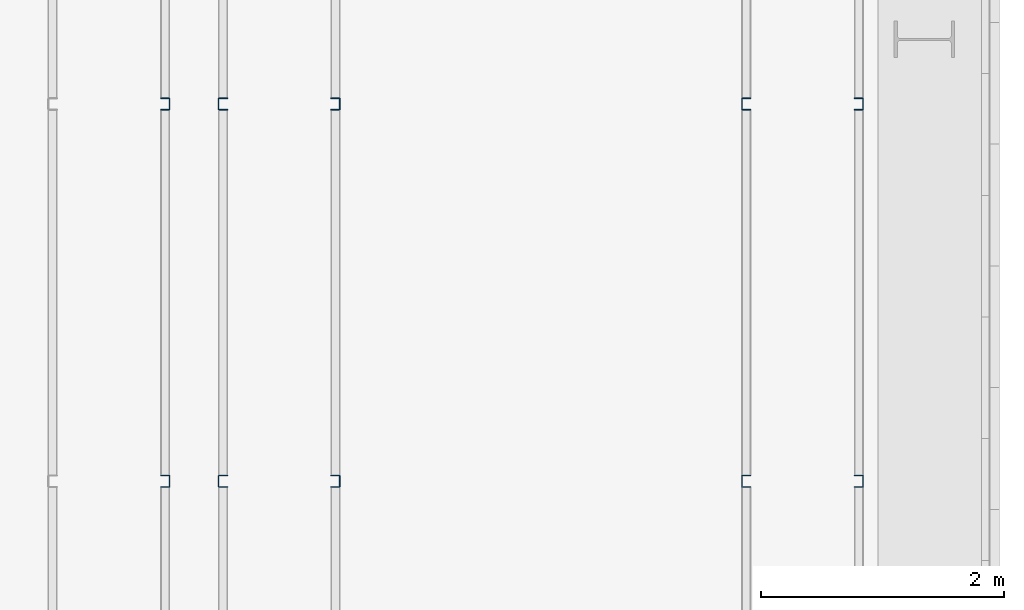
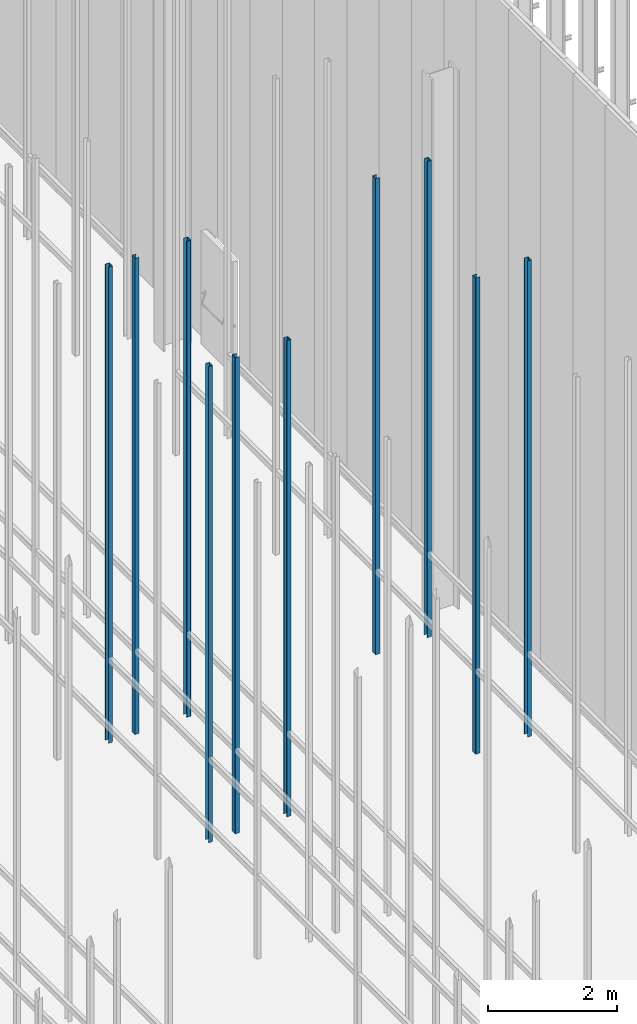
# One storey, part 28 of 302: 10 columns.
"""IFC2X3 building model written with IfcOpenShell, lengths in metres."""

from ifc_helpers import new_model, entity, si_unit, converted_unit, derived_unit, direction, frame, frame_2d, origin, place, context, subcontext, project, spatial, polyline, circle_curve, parameter, trimmed, segment, composite_curve, outline, extrude, source, transform, mapped, material, type_object, type_shapes, element, save


model = new_model("IFC2X3")

# Units and contexts
model_context = context("Model", 3, precision=1e-05, world=origin(), true_north=direction((6.12303176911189e-17, 1.0)))
body_context = subcontext(model_context, "Body", "Model", "MODEL_VIEW")
ifc_project = project(units=[si_unit("LENGTHUNIT", "METRE"), si_unit("AREAUNIT", "SQUARE_METRE"), si_unit("VOLUMEUNIT", "CUBIC_METRE"), converted_unit("PLANEANGLEUNIT", "DEGREE", entity("IfcRatioMeasure", 0.0174532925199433), si_unit("PLANEANGLEUNIT", "RADIAN"), dimensions=[0, 0, 0, 0, 0, 0, 0]), si_unit("MASSUNIT", "GRAM", prefix="KILO"), derived_unit("MASSDENSITYUNIT", [(si_unit("MASSUNIT", "GRAM", prefix="KILO"), 1), (si_unit("LENGTHUNIT", "METRE"), -3)]), derived_unit("MOMENTOFINERTIAUNIT", [(si_unit("LENGTHUNIT", "METRE"), 4)]), si_unit("TIMEUNIT", "SECOND"), si_unit("FREQUENCYUNIT", "HERTZ"), si_unit("THERMODYNAMICTEMPERATUREUNIT", "DEGREE_CELSIUS"), derived_unit("THERMALTRANSMITTANCEUNIT", [(si_unit("MASSUNIT", "GRAM", prefix="KILO"), 1), (si_unit("THERMODYNAMICTEMPERATUREUNIT", "KELVIN"), -1), (si_unit("TIMEUNIT", "SECOND"), -3)]), derived_unit("VOLUMETRICFLOWRATEUNIT", [(si_unit("LENGTHUNIT", "METRE"), 3), (si_unit("TIMEUNIT", "SECOND"), -1)]), si_unit("ELECTRICCURRENTUNIT", "AMPERE"), si_unit("ELECTRICVOLTAGEUNIT", "VOLT"), si_unit("POWERUNIT", "WATT"), si_unit("FORCEUNIT", "NEWTON", prefix="KILO"), si_unit("ILLUMINANCEUNIT", "LUX"), si_unit("LUMINOUSFLUXUNIT", "LUMEN"), si_unit("LUMINOUSINTENSITYUNIT", "CANDELA"), derived_unit("USERDEFINED", [(si_unit("MASSUNIT", "GRAM", prefix="KILO"), -1), (si_unit("LENGTHUNIT", "METRE"), -2), (si_unit("TIMEUNIT", "SECOND"), 3), (si_unit("LUMINOUSFLUXUNIT", "LUMEN"), 1)]), derived_unit("LINEARVELOCITYUNIT", [(si_unit("LENGTHUNIT", "METRE"), 1), (si_unit("TIMEUNIT", "SECOND"), -1)]), si_unit("PRESSUREUNIT", "PASCAL"), derived_unit("USERDEFINED", [(si_unit("LENGTHUNIT", "METRE"), -2), (si_unit("MASSUNIT", "GRAM", prefix="KILO"), 1), (si_unit("TIMEUNIT", "SECOND"), -2)]), derived_unit("LINEARFORCEUNIT", [(si_unit("MASSUNIT", "GRAM", prefix="KILO"), 1), (si_unit("LENGTHUNIT", "METRE"), 1), (si_unit("TIMEUNIT", "SECOND"), -2), (si_unit("LENGTHUNIT", "METRE"), -1)]), derived_unit("PLANARFORCEUNIT", [(si_unit("MASSUNIT", "GRAM", prefix="KILO"), 1), (si_unit("LENGTHUNIT", "METRE"), 1), (si_unit("TIMEUNIT", "SECOND"), -2), (si_unit("LENGTHUNIT", "METRE"), -2)])], contexts=[model_context])

# Site, building, storey
site_placement = place(None, origin())
site = spatial("IfcSite", under=ifc_project, at=site_placement, Name="Default", CompositionType="ELEMENT")
building_placement = place(site_placement, origin())
building = spatial("IfcBuilding", under=site, at=building_placement, CompositionType="ELEMENT")
storey_placement = place(building_placement, frame((0.0, 0.0, -1.3)))
storey = spatial("IfcBuildingStorey", under=building, at=storey_placement, Name="00_EG", CompositionType="ELEMENT", Elevation=-1.3)

# Columns
ifc_material = material(Name="Metall - Baustahl S235")
column_type_1 = type_object("IfcColumnType", Name="Leichter Stahl Schlossschrauben Stütze:C 100", PredefinedType="COLUMN", material=ifc_material)
shared_shape_1 = source(origin(), body_context, "Body", "SweptSolid", [
    extrude(outline(composite_curve([segment(polyline([(-0.0469749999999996, -0.0499999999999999), (0.0214500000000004, -0.0499999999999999)]), True, "CONTINUOUS"), segment(trimmed(circle_curve(frame_2d((0.0214500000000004, -0.0434249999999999), x_axis=(0.0, -1.0)), 0.00657500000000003), [parameter(0.0)], [parameter(89.9999999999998)], True, "PARAMETER"), True, "CONTINUOUS"), segment(polyline([(0.0280250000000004, -0.0434249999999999), (0.0280250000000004, 0.0434250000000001)]), True, "CONTINUOUS"), segment(trimmed(circle_curve(frame_2d((0.0214500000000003, 0.0434250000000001), x_axis=(1.0, 0.0)), 0.0065750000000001), [parameter(0.0)], [parameter(89.9999999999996)], True, "PARAMETER"), True, "CONTINUOUS"), segment(polyline([(0.0214500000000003, 0.0500000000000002), (-0.0469750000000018, 0.0500000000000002)]), True, "CONTINUOUS"), segment(polyline([(-0.0469750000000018, 0.0500000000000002), (-0.0469750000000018, 0.0450000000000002)]), True, "CONTINUOUS"), segment(polyline([(-0.0469750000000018, 0.0450000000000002), (0.0214500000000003, 0.0450000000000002)]), True, "CONTINUOUS"), segment(trimmed(circle_curve(frame_2d((0.0214500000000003, 0.0434249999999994), x_axis=(0.0, 1.0)), 0.00157500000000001), [parameter(269.999999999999)], [parameter(0.0)], True, "PARAMETER"), False, "CONTINUOUS"), segment(polyline([(0.0230250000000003, 0.0434249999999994), (0.0230250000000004, -0.0434249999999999)]), True, "CONTINUOUS"), segment(trimmed(circle_curve(frame_2d((0.0214500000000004, -0.0434249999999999), x_axis=(1.0, 0.0)), 0.00157500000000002), [parameter(270.0)], [parameter(0.0)], True, "PARAMETER"), False, "CONTINUOUS"), segment(polyline([(0.0214500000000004, -0.0449999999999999), (-0.0469749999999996, -0.0449999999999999)]), True, "CONTINUOUS"), segment(polyline([(-0.0469749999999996, -0.0449999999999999), (-0.0469749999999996, -0.0499999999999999)]), True, "CONTINUOUS")], self_intersect=False)), frame((0.0499999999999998, 0.0280250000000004, -0.0300000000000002), z_axis=(0.0, 0.0, 1.0), x_axis=(0.0, -1.0, 0.0)), (0.0, 0.0, 1.0), 9.0),
])
type_shapes(column_type_1, [shared_shape_1])
for number, where, z_axis, x_axis in (
    (1, (-183.690111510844, 36.448088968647, 1.3), (0.0, 0.0, 1.0), (0.0, -1.0, 0.0)),
    (2, (-183.690111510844, 39.548088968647, 1.3), (0.0, 0.0, 1.0), (0.0, -1.0, 0.0)),
    (3, (-179.390111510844, 36.448088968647, 1.3), (0.0, 0.0, 1.0), (0.0, -1.0, 0.0)),
    (4, (-179.390111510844, 39.5480889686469, 1.3), (0.0, 0.0, 1.0), (0.0, -1.0, 0.0)),
):
    element("IfcColumn", number, at=place(storey_placement, frame(where, z_axis=z_axis, x_axis=x_axis)), inside=storey, type_object=column_type_1, material=ifc_material, Name="Leichter Stahl Schlossschrauben Stütze:C 100", ObjectType="Leichter Stahl Schlossschrauben Stütze:C 100", context=body_context, shape_type="MappedRepresentation", body=[
        mapped(shared_shape_1, transform((0.0, 0.0, 0.0), scale=1.0)),
    ])
column_type_2 = type_object("IfcColumnType", Name="Leichter Stahl Schlossschrauben Stütze:C 100", PredefinedType="COLUMN", material=ifc_material)
shared_shape_2 = source(origin(), body_context, "Body", "SweptSolid", [
    extrude(outline(composite_curve([segment(polyline([(-0.0214500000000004, -0.0499999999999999), (0.0469749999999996, -0.0499999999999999)]), True, "CONTINUOUS"), segment(polyline([(0.0469749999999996, -0.0499999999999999), (0.0469749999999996, -0.0449999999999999)]), True, "CONTINUOUS"), segment(polyline([(0.0469749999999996, -0.0449999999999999), (-0.0214500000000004, -0.045)]), True, "CONTINUOUS"), segment(trimmed(circle_curve(frame_2d((-0.0214500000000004, -0.043425), x_axis=(0.0, -1.0)), 0.00157500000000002), [parameter(270.0)], [parameter(0.0)], True, "PARAMETER"), False, "CONTINUOUS"), segment(polyline([(-0.0230250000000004, -0.0434249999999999), (-0.0230250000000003, 0.0434249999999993)]), True, "CONTINUOUS"), segment(trimmed(circle_curve(frame_2d((-0.0214500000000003, 0.0434249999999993), x_axis=(-1.0, 0.0)), 0.00157500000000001), [parameter(269.999999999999)], [parameter(0.0)], True, "PARAMETER"), False, "CONTINUOUS"), segment(polyline([(-0.0214500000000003, 0.0450000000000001), (0.0469750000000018, 0.0450000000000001)]), True, "CONTINUOUS"), segment(polyline([(0.0469750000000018, 0.0450000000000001), (0.0469750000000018, 0.0500000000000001)]), True, "CONTINUOUS"), segment(polyline([(0.0469750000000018, 0.0500000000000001), (-0.0214500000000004, 0.0500000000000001)]), True, "CONTINUOUS"), segment(trimmed(circle_curve(frame_2d((-0.0214500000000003, 0.043425), x_axis=(0.0, 1.0)), 0.0065750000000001), [parameter(0.0)], [parameter(89.9999999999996)], True, "PARAMETER"), True, "CONTINUOUS"), segment(polyline([(-0.0280250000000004, 0.043425), (-0.0280250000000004, -0.043425)]), True, "CONTINUOUS"), segment(trimmed(circle_curve(frame_2d((-0.0214500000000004, -0.0434249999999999), x_axis=(-1.0, 0.0)), 0.00657500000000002), [parameter(0.0)], [parameter(89.9999999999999)], True, "PARAMETER"), True, "CONTINUOUS")], self_intersect=False)), frame((0.0499999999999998, -0.0280250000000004, -0.0300000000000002), z_axis=(0.0, 0.0, 1.0), x_axis=(0.0, -1.0, 0.0)), (0.0, 0.0, 1.0), 9.0),
])
type_shapes(column_type_2, [shared_shape_2])
for number, where, z_axis, x_axis in (
    (5, (-184.090111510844, 36.448088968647, 1.3), (0.0, 0.0, 1.0), (0.0, -1.0, 0.0)),
    (6, (-184.090111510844, 39.548088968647, 1.3), (0.0, 0.0, 1.0), (0.0, -1.0, 0.0)),
    (7, (-182.690111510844, 36.448088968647, 1.3), (0.0, 0.0, 1.0), (0.0, -1.0, 0.0)),
    (8, (-182.690111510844, 39.548088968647, 1.3), (0.0, 0.0, 1.0), (0.0, -1.0, 0.0)),
    (9, (-178.390111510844, 36.448088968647, 1.3), (0.0, 0.0, 1.0), (0.0, -1.0, 0.0)),
    (10, (-178.390111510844, 39.5480889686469, 1.3), (0.0, 0.0, 1.0), (0.0, -1.0, 0.0)),
):
    element("IfcColumn", number, at=place(storey_placement, frame(where, z_axis=z_axis, x_axis=x_axis)), inside=storey, type_object=column_type_2, material=ifc_material, Name="Leichter Stahl Schlossschrauben Stütze:C 100", ObjectType="Leichter Stahl Schlossschrauben Stütze:C 100", context=body_context, shape_type="MappedRepresentation", body=[
        mapped(shared_shape_2, transform((0.0, 0.0, 0.0), scale=1.0)),
    ])

save(model, "model.ifc")
